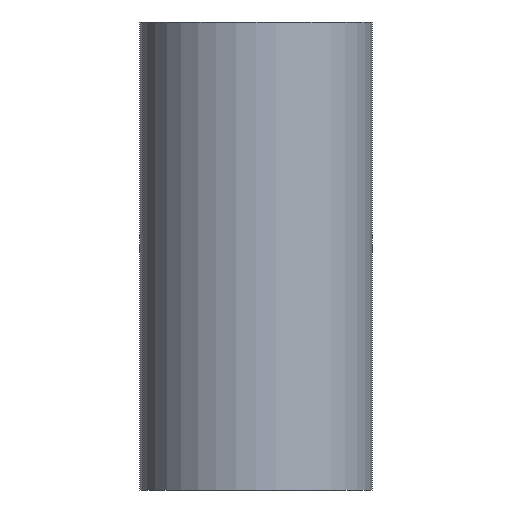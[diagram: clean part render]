
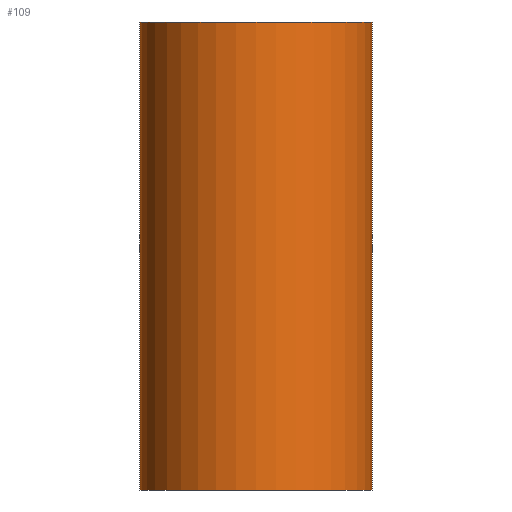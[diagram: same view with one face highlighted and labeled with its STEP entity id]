
A CAD part, front view. The second image highlights one B-rep face of the part: STEP entity #109.
In plain terms, the highlighted cylindrical face has radius 31.5 mm (diameter 63 mm), a partial arc.
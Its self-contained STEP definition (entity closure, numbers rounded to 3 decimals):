
#5 = CARTESIAN_POINT ( 'NONE',  ( 0., 0., 0. ) ) ;
#6 = EDGE_CURVE ( 'NONE', #37, #84, #102, .T. ) ;
#7 = ORIENTED_EDGE ( 'NONE', *, *, #189, .F. ) ;
#10 = VERTEX_POINT ( 'NONE', #179 ) ;
#17 = CARTESIAN_POINT ( 'NONE',  ( -31.5, 0., 127. ) ) ;
#25 = DIRECTION ( 'NONE',  ( 0., 0., 1. ) ) ;
#37 = VERTEX_POINT ( 'NONE', #58 ) ;
#38 = CYLINDRICAL_SURFACE ( 'NONE', #83, 31.5 ) ;
#42 = VECTOR ( 'NONE', #192, 1000. ) ;
#47 = LINE ( 'NONE', #85, #42 ) ;
#49 = FACE_OUTER_BOUND ( 'NONE', #146, .T. ) ;
#51 = AXIS2_PLACEMENT_3D ( 'NONE', #5, #121, #64 ) ;
#55 = DIRECTION ( 'NONE',  ( 1., 0., 0. ) ) ;
#57 = VERTEX_POINT ( 'NONE', #17 ) ;
#58 = CARTESIAN_POINT ( 'NONE',  ( -31.5, 0., 0. ) ) ;
#60 = DIRECTION ( 'NONE',  ( 0., 0., -1. ) ) ;
#63 = LINE ( 'NONE', #137, #124 ) ;
#64 = DIRECTION ( 'NONE',  ( 1., 0., 0. ) ) ;
#75 = CARTESIAN_POINT ( 'NONE',  ( 31.5, 0., 0. ) ) ;
#83 = AXIS2_PLACEMENT_3D ( 'NONE', #120, #60, #131 ) ;
#84 = VERTEX_POINT ( 'NONE', #75 ) ;
#85 = CARTESIAN_POINT ( 'NONE',  ( 31.5, 0., 127. ) ) ;
#88 = DIRECTION ( 'NONE',  ( 0., 0., -1. ) ) ;
#93 = EDGE_CURVE ( 'NONE', #57, #37, #63, .T. ) ;
#102 = CIRCLE ( 'NONE', #51, 31.5 ) ;
#109 = ADVANCED_FACE ( 'NONE', ( #49 ), #38, .T. ) ;
#119 = CIRCLE ( 'NONE', #213, 31.5 ) ;
#120 = CARTESIAN_POINT ( 'NONE',  ( 0., 0., 127. ) ) ;
#121 = DIRECTION ( 'NONE',  ( 0., 0., 1. ) ) ;
#124 = VECTOR ( 'NONE', #88, 1000. ) ;
#131 = DIRECTION ( 'NONE',  ( -1., 0., 0. ) ) ;
#133 = EDGE_CURVE ( 'NONE', #10, #84, #47, .T. ) ;
#137 = CARTESIAN_POINT ( 'NONE',  ( -31.5, 0., 127. ) ) ;
#143 = CARTESIAN_POINT ( 'NONE',  ( 0., 0., 127. ) ) ;
#146 = EDGE_LOOP ( 'NONE', ( #163, #7, #199, #191 ) ) ;
#163 = ORIENTED_EDGE ( 'NONE', *, *, #133, .F. ) ;
#179 = CARTESIAN_POINT ( 'NONE',  ( 31.5, 0., 127. ) ) ;
#189 = EDGE_CURVE ( 'NONE', #57, #10, #119, .T. ) ;
#191 = ORIENTED_EDGE ( 'NONE', *, *, #6, .T. ) ;
#192 = DIRECTION ( 'NONE',  ( 0., 0., -1. ) ) ;
#199 = ORIENTED_EDGE ( 'NONE', *, *, #93, .T. ) ;
#213 = AXIS2_PLACEMENT_3D ( 'NONE', #143, #25, #55 ) ;
